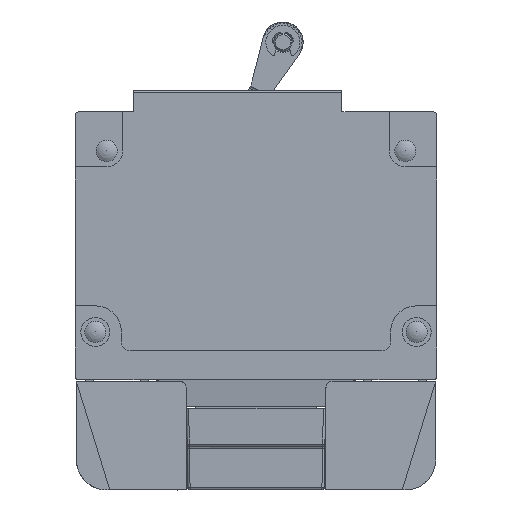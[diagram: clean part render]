
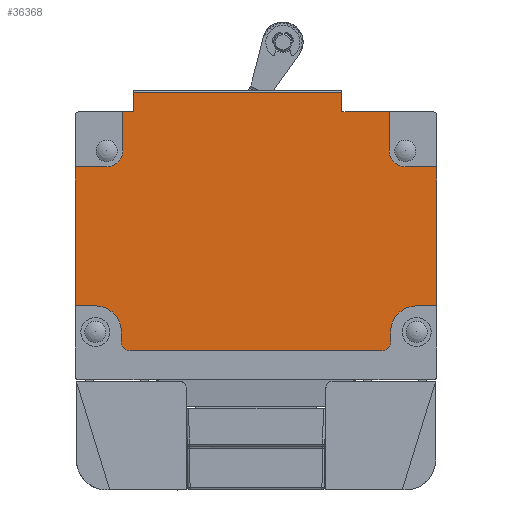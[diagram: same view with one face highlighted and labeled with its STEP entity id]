
A CAD part, left-side view. The second image highlights one B-rep face of the part: STEP entity #36368.
In plain terms, the highlighted planar face has unit normal (-1, 0, 0).
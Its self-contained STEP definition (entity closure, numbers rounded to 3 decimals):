
#2336=FACE_OUTER_BOUND('',#4292,.T.);
#4292=EDGE_LOOP('',(#27541,#27542,#27543,#27544,#27545,#27546,#27547,#27548,
#27549,#27550,#27551,#27552,#27553,#27554,#27555,#27556,#27557,#27558,#27559,
#27560,#27561,#27562));
#5634=CIRCLE('',#38352,2.794);
#5658=CIRCLE('',#38398,4.572);
#5661=CIRCLE('',#38403,1.575);
#5663=CIRCLE('',#38407,1.575);
#5665=CIRCLE('',#38411,4.572);
#5846=CIRCLE('',#39159,2.794);
#7445=LINE('',#54966,#10701);
#7476=LINE('',#55057,#10732);
#7483=LINE('',#55096,#10739);
#7487=LINE('',#55108,#10743);
#7491=LINE('',#55120,#10747);
#7494=LINE('',#55131,#10750);
#8648=LINE('',#59567,#11904);
#8652=LINE('',#59586,#11908);
#8683=LINE('',#59677,#11939);
#8684=LINE('',#59681,#11940);
#8685=LINE('',#59683,#11941);
#8686=LINE('',#59684,#11942);
#8687=LINE('',#59685,#11943);
#8688=LINE('',#59686,#11944);
#8689=LINE('',#59688,#11945);
#8690=LINE('',#59689,#11946);
#10701=VECTOR('',#43992,6.858);
#10732=VECTOR('',#44079,5.563);
#10739=VECTOR('',#44122,1.727);
#10743=VECTOR('',#44134,44.094);
#10747=VECTOR('',#44146,1.727);
#10750=VECTOR('',#44157,3.556);
#11904=VECTOR('',#46795,3.556);
#11908=VECTOR('',#46813,5.563);
#11939=VECTOR('',#46900,6.858);
#11940=VECTOR('',#46903,36.525);
#11941=VECTOR('',#46904,3.429);
#11942=VECTOR('',#46905,1.956);
#11943=VECTOR('',#46906,24.384);
#11944=VECTOR('',#46907,24.384);
#11945=VECTOR('',#46908,8.306);
#11946=VECTOR('',#46909,3.429);
#14159=VERTEX_POINT('',#54954);
#14161=VERTEX_POINT('',#54957);
#14164=VERTEX_POINT('',#54965);
#14196=VERTEX_POINT('',#55055);
#14205=VERTEX_POINT('',#55083);
#14207=VERTEX_POINT('',#55086);
#14209=VERTEX_POINT('',#55092);
#14211=VERTEX_POINT('',#55098);
#14213=VERTEX_POINT('',#55104);
#14215=VERTEX_POINT('',#55110);
#14217=VERTEX_POINT('',#55116);
#14219=VERTEX_POINT('',#55122);
#14222=VERTEX_POINT('',#55130);
#15146=VERTEX_POINT('',#59565);
#15149=VERTEX_POINT('',#59574);
#15151=VERTEX_POINT('',#59577);
#15154=VERTEX_POINT('',#59585);
#15186=VERTEX_POINT('',#59675);
#15187=VERTEX_POINT('',#59679);
#15188=VERTEX_POINT('',#59680);
#15189=VERTEX_POINT('',#59682);
#15190=VERTEX_POINT('',#59687);
#18071=EDGE_CURVE('',#14161,#14159,#5634,.T.);
#18075=EDGE_CURVE('',#14164,#14161,#7445,.T.);
#18120=EDGE_CURVE('',#14196,#14159,#7476,.T.);
#18132=EDGE_CURVE('',#14207,#14205,#5658,.T.);
#18137=EDGE_CURVE('',#14209,#14207,#7483,.T.);
#18140=EDGE_CURVE('',#14209,#14211,#5661,.T.);
#18143=EDGE_CURVE('',#14213,#14211,#7487,.T.);
#18146=EDGE_CURVE('',#14213,#14215,#5663,.T.);
#18149=EDGE_CURVE('',#14217,#14215,#7491,.T.);
#18152=EDGE_CURVE('',#14219,#14217,#5665,.T.);
#18154=EDGE_CURVE('',#14222,#14219,#7494,.T.);
#19580=EDGE_CURVE('',#15146,#14205,#8648,.T.);
#19584=EDGE_CURVE('',#15151,#15149,#5846,.T.);
#19588=EDGE_CURVE('',#15154,#15151,#8652,.T.);
#19633=EDGE_CURVE('',#15186,#15149,#8683,.T.);
#19634=EDGE_CURVE('',#15187,#15188,#8684,.T.);
#19635=EDGE_CURVE('',#15189,#15187,#8685,.T.);
#19636=EDGE_CURVE('',#15189,#14164,#8686,.T.);
#19637=EDGE_CURVE('',#14222,#14196,#8687,.T.);
#19638=EDGE_CURVE('',#15146,#15154,#8688,.T.);
#19639=EDGE_CURVE('',#15186,#15190,#8689,.T.);
#19640=EDGE_CURVE('',#15190,#15188,#8690,.T.);
#27541=ORIENTED_EDGE('',*,*,#19634,.F.);
#27542=ORIENTED_EDGE('',*,*,#19635,.F.);
#27543=ORIENTED_EDGE('',*,*,#19636,.T.);
#27544=ORIENTED_EDGE('',*,*,#18075,.T.);
#27545=ORIENTED_EDGE('',*,*,#18071,.T.);
#27546=ORIENTED_EDGE('',*,*,#18120,.F.);
#27547=ORIENTED_EDGE('',*,*,#19637,.F.);
#27548=ORIENTED_EDGE('',*,*,#18154,.T.);
#27549=ORIENTED_EDGE('',*,*,#18152,.T.);
#27550=ORIENTED_EDGE('',*,*,#18149,.T.);
#27551=ORIENTED_EDGE('',*,*,#18146,.F.);
#27552=ORIENTED_EDGE('',*,*,#18143,.T.);
#27553=ORIENTED_EDGE('',*,*,#18140,.F.);
#27554=ORIENTED_EDGE('',*,*,#18137,.T.);
#27555=ORIENTED_EDGE('',*,*,#18132,.T.);
#27556=ORIENTED_EDGE('',*,*,#19580,.F.);
#27557=ORIENTED_EDGE('',*,*,#19638,.T.);
#27558=ORIENTED_EDGE('',*,*,#19588,.T.);
#27559=ORIENTED_EDGE('',*,*,#19584,.T.);
#27560=ORIENTED_EDGE('',*,*,#19633,.F.);
#27561=ORIENTED_EDGE('',*,*,#19639,.T.);
#27562=ORIENTED_EDGE('',*,*,#19640,.T.);
#32946=PLANE('',#39190);
#36368=ADVANCED_FACE('',(#2336),#32946,.T.);
#38352=AXIS2_PLACEMENT_3D('',#54958,#43984,#43985);
#38398=AXIS2_PLACEMENT_3D('',#55087,#44113,#44114);
#38403=AXIS2_PLACEMENT_3D('',#55102,#44128,#44129);
#38407=AXIS2_PLACEMENT_3D('',#55114,#44140,#44141);
#38411=AXIS2_PLACEMENT_3D('',#55126,#44152,#44153);
#39159=AXIS2_PLACEMENT_3D('',#59578,#46805,#46806);
#39190=AXIS2_PLACEMENT_3D('',#59678,#46901,#46902);
#43984=DIRECTION('center_axis',(1.,0.,0.));
#43985=DIRECTION('ref_axis',(0.,-1.,0.));
#43992=DIRECTION('',(0.,0.,-1.));
#44079=DIRECTION('',(0.,-1.,0.));
#44113=DIRECTION('center_axis',(1.,0.,0.));
#44114=DIRECTION('ref_axis',(0.,1.,0.));
#44122=DIRECTION('',(0.,0.,1.));
#44128=DIRECTION('center_axis',(1.,0.,0.));
#44129=DIRECTION('ref_axis',(0.,-1.,0.));
#44134=DIRECTION('',(0.,-1.,0.));
#44140=DIRECTION('center_axis',(1.,0.,0.));
#44141=DIRECTION('ref_axis',(0.,0.,-1.));
#44146=DIRECTION('',(0.,0.,-1.));
#44152=DIRECTION('center_axis',(1.,0.,0.));
#44153=DIRECTION('ref_axis',(0.,0.,1.));
#44157=DIRECTION('',(0.,-1.,0.));
#46795=DIRECTION('',(0.,1.,0.));
#46805=DIRECTION('center_axis',(1.,0.,0.));
#46806=DIRECTION('ref_axis',(0.,0.,-1.));
#46813=DIRECTION('',(0.,1.,0.));
#46900=DIRECTION('',(0.,0.,-1.));
#46901=DIRECTION('center_axis',(-1.,0.,0.));
#46902=DIRECTION('ref_axis',(0.,0.,1.));
#46903=DIRECTION('',(0.,-1.,0.));
#46904=DIRECTION('',(0.,0.,1.));
#46905=DIRECTION('',(0.,1.,0.));
#46906=DIRECTION('',(0.,0.,1.));
#46907=DIRECTION('',(0.,0.,1.));
#46908=DIRECTION('',(0.,1.,0.));
#46909=DIRECTION('',(0.,0.,1.));
#54954=CARTESIAN_POINT('',(-19.05,57.937,-2.794));
#54957=CARTESIAN_POINT('',(-19.05,55.143,0.));
#54958=CARTESIAN_POINT('Origin',(-19.05,57.937,0.));
#54965=CARTESIAN_POINT('',(-19.05,55.143,6.858));
#54966=CARTESIAN_POINT('',(-19.05,55.143,6.858));
#55055=CARTESIAN_POINT('',(-19.05,63.5,-2.794));
#55057=CARTESIAN_POINT('',(-19.05,63.5,-2.794));
#55083=CARTESIAN_POINT('',(-19.05,3.556,-27.178));
#55086=CARTESIAN_POINT('',(-19.05,8.128,-31.75));
#55087=CARTESIAN_POINT('Origin',(-19.05,3.556,-31.75));
#55092=CARTESIAN_POINT('',(-19.05,8.128,-33.477));
#55096=CARTESIAN_POINT('',(-19.05,8.128,-33.477));
#55098=CARTESIAN_POINT('',(-19.05,9.703,-35.052));
#55102=CARTESIAN_POINT('Origin',(-19.05,9.703,-33.477));
#55104=CARTESIAN_POINT('',(-19.05,53.797,-35.052));
#55108=CARTESIAN_POINT('',(-19.05,53.797,-35.052));
#55110=CARTESIAN_POINT('',(-19.05,55.372,-33.477));
#55114=CARTESIAN_POINT('Origin',(-19.05,53.797,-33.477));
#55116=CARTESIAN_POINT('',(-19.05,55.372,-31.75));
#55120=CARTESIAN_POINT('',(-19.05,55.372,-31.75));
#55122=CARTESIAN_POINT('',(-19.05,59.944,-27.178));
#55126=CARTESIAN_POINT('Origin',(-19.05,59.944,-31.75));
#55130=CARTESIAN_POINT('',(-19.05,63.5,-27.178));
#55131=CARTESIAN_POINT('',(-19.05,63.5,-27.178));
#59565=CARTESIAN_POINT('',(-19.05,0.,-27.178));
#59567=CARTESIAN_POINT('',(-19.05,0.,-27.178));
#59574=CARTESIAN_POINT('',(-19.05,8.357,0.));
#59577=CARTESIAN_POINT('',(-19.05,5.563,-2.794));
#59578=CARTESIAN_POINT('Origin',(-19.05,5.563,0.));
#59585=CARTESIAN_POINT('',(-19.05,0.,-2.794));
#59586=CARTESIAN_POINT('',(-19.05,0.,-2.794));
#59675=CARTESIAN_POINT('',(-19.05,8.357,6.858));
#59677=CARTESIAN_POINT('',(-19.05,8.357,6.858));
#59678=CARTESIAN_POINT('Origin',(-19.05,0.,-40.132));
#59679=CARTESIAN_POINT('',(-19.05,53.188,10.287));
#59680=CARTESIAN_POINT('',(-19.05,16.662,10.287));
#59681=CARTESIAN_POINT('',(-19.05,53.188,10.287));
#59682=CARTESIAN_POINT('',(-19.05,53.188,6.858));
#59683=CARTESIAN_POINT('',(-19.05,53.188,6.858));
#59684=CARTESIAN_POINT('',(-19.05,53.188,6.858));
#59685=CARTESIAN_POINT('',(-19.05,63.5,-27.178));
#59686=CARTESIAN_POINT('',(-19.05,0.,-27.178));
#59687=CARTESIAN_POINT('',(-19.05,16.662,6.858));
#59688=CARTESIAN_POINT('',(-19.05,8.357,6.858));
#59689=CARTESIAN_POINT('',(-19.05,16.662,6.858));
